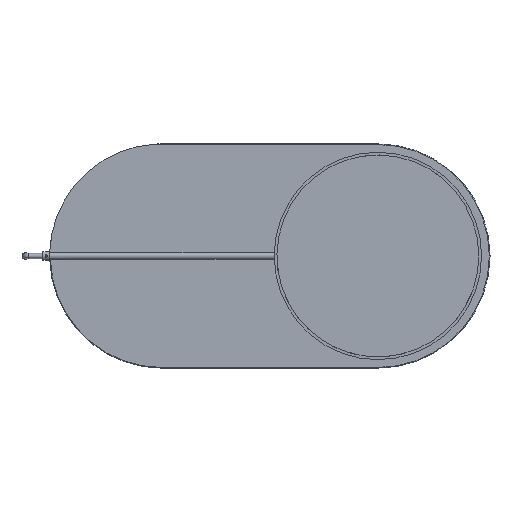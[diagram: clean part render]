
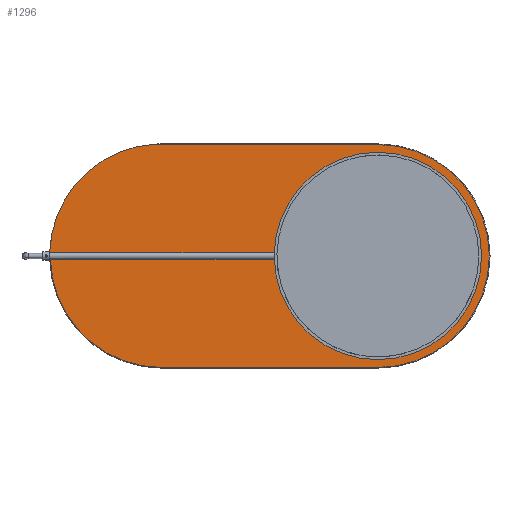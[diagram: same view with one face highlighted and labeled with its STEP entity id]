
A CAD part, top view. The second image highlights one B-rep face of the part: STEP entity #1296.
In plain terms, the highlighted planar face has unit normal (0, 0, 1).
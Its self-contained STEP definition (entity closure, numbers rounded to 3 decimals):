
#411=CARTESIAN_POINT('',(0.0,-330.0,5.0));
#412=VERTEX_POINT('',#411);
#420=CARTESIAN_POINT('',(-640.,-330.0,5.0));
#421=VERTEX_POINT('',#420);
#422=CARTESIAN_POINT('',(0.0,-330.0,5.0));
#423=DIRECTION('',(-1.0,0.0,0.0));
#424=VECTOR('',#423,640.);
#425=LINE('',#422,#424);
#426=EDGE_CURVE('',#412,#421,#425,.T.);
#452=CARTESIAN_POINT('',(0.,330.0,5.0));
#453=VERTEX_POINT('',#452);
#461=CARTESIAN_POINT('',(0.0,0.0,5.0));
#462=DIRECTION('',(0.0,0.0,-1.0));
#463=DIRECTION('',(1.0,0.0,0.0));
#464=AXIS2_PLACEMENT_3D('',#461,#462,#463);
#465=CIRCLE('',#464,330.0);
#466=EDGE_CURVE('',#453,#412,#465,.T.);
#478=CARTESIAN_POINT('',(-969.767,-9.233,5.0));
#479=VERTEX_POINT('',#478);
#480=CARTESIAN_POINT('',(-639.894,0.002,5.0));
#481=DIRECTION('',(0.0,0.0,-1.));
#482=DIRECTION('',(-0.697,-0.717,0.0));
#483=AXIS2_PLACEMENT_3D('',#480,#481,#482);
#484=CIRCLE('',#483,330.002);
#485=EDGE_CURVE('',#421,#479,#484,.T.);
#512=CARTESIAN_POINT('',(-603.476,330.0,5.0));
#513=VERTEX_POINT('',#512);
#553=CARTESIAN_POINT('',(-603.476,330.0,5.0));
#554=DIRECTION('',(1.0,0.0,0.0));
#555=VECTOR('',#554,603.476);
#556=LINE('',#553,#555);
#557=EDGE_CURVE('',#513,#453,#556,.T.);
#1218=CARTESIAN_POINT('',(-300.858,-9.233,5.0));
#1219=VERTEX_POINT('',#1218);
#1220=CARTESIAN_POINT('',(-300.858,-9.233,5.0));
#1221=DIRECTION('',(-1.0,0.0,0.0));
#1222=VECTOR('',#1221,668.909);
#1223=LINE('',#1220,#1222);
#1224=EDGE_CURVE('',#1219,#479,#1223,.T.);
#1226=CARTESIAN_POINT('',(-300.858,9.233,5.0));
#1227=VERTEX_POINT('',#1226);
#1245=CARTESIAN_POINT('',(-971.768,9.233,5.0));
#1246=VERTEX_POINT('',#1245);
#1247=CARTESIAN_POINT('',(-971.768,9.233,5.0));
#1248=DIRECTION('',(1.0,0.0,0.0));
#1249=VECTOR('',#1248,670.909);
#1250=LINE('',#1247,#1249);
#1251=EDGE_CURVE('',#1246,#1227,#1250,.T.);
#1269=CARTESIAN_POINT('',(-319.927,-0.015,5.0));
#1270=DIRECTION('',(0.0,0.0,1.0));
#1271=DIRECTION('',(1.0,0.0,0.0));
#1272=AXIS2_PLACEMENT_3D('',#1269,#1270,#1271);
#1273=PLANE('',#1272);
#1274=CARTESIAN_POINT('',(-639.894,0.002,5.0));
#1275=DIRECTION('',(0.0,0.0,-1.));
#1276=DIRECTION('',(-0.005,-1.,0.0));
#1277=AXIS2_PLACEMENT_3D('',#1274,#1275,#1276);
#1278=CIRCLE('',#1277,332.002);
#1279=EDGE_CURVE('',#1246,#513,#1278,.T.);
#1280=ORIENTED_EDGE('',*,*,#1279,.F.);
#1281=ORIENTED_EDGE('',*,*,#1251,.T.);
#1282=CARTESIAN_POINT('',(0.0,0.0,5.0));
#1283=DIRECTION('',(0.0,0.0,1.0));
#1284=DIRECTION('',(-1.0,0.0,0.0));
#1285=AXIS2_PLACEMENT_3D('',#1282,#1283,#1284);
#1286=CIRCLE('',#1285,301.0);
#1287=EDGE_CURVE('',#1219,#1227,#1286,.T.);
#1288=ORIENTED_EDGE('',*,*,#1287,.F.);
#1289=ORIENTED_EDGE('',*,*,#1224,.T.);
#1290=ORIENTED_EDGE('',*,*,#485,.F.);
#1291=ORIENTED_EDGE('',*,*,#426,.F.);
#1292=ORIENTED_EDGE('',*,*,#466,.F.);
#1293=ORIENTED_EDGE('',*,*,#557,.F.);
#1294=EDGE_LOOP('',(#1280,#1281,#1288,#1289,#1290,#1291,#1292,#1293));
#1295=FACE_OUTER_BOUND('',#1294,.T.);
#1296=ADVANCED_FACE('',(#1295),#1273,.T.);
